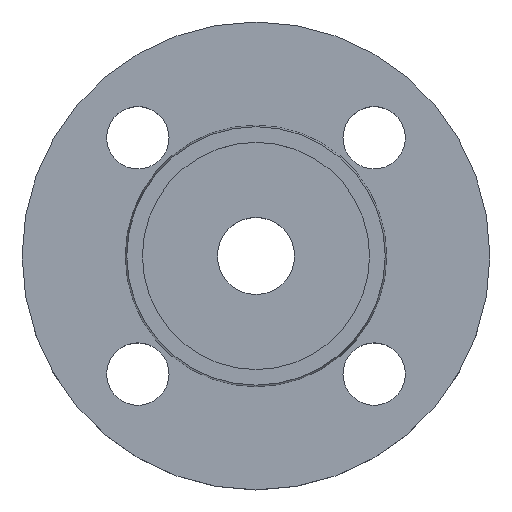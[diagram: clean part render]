
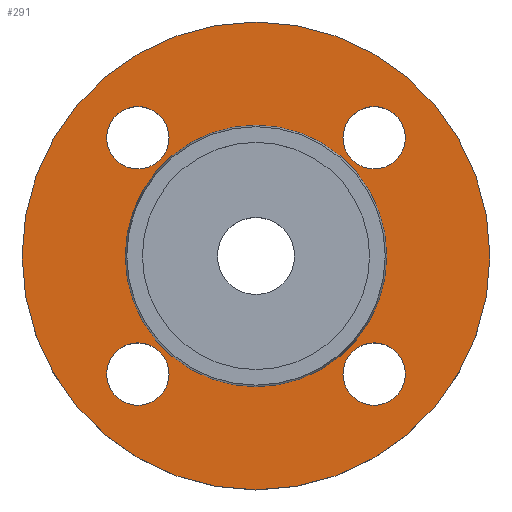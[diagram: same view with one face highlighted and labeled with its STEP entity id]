
A CAD part, top view. The second image highlights one B-rep face of the part: STEP entity #291.
In plain terms, the highlighted planar face has unit normal (0, 0, 1).
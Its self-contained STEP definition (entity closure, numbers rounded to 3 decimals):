
#11 = CIRCLE ( 'NONE', #692, 7. ) ;
#12 = AXIS2_PLACEMENT_3D ( 'NONE', #470, #469, #468 ) ;
#34 = AXIS2_PLACEMENT_3D ( 'NONE', #392, #390, #389 ) ;
#40 = EDGE_CURVE ( 'NONE', #683, #677, #447, .T. ) ;
#49 = CIRCLE ( 'NONE', #257, 7. ) ;
#60 = EDGE_CURVE ( 'NONE', #613, #656, #431, .T. ) ;
#71 = CIRCLE ( 'NONE', #487, 7. ) ;
#73 = AXIS2_PLACEMENT_3D ( 'NONE', #473, #472, #471 ) ;
#80 = EDGE_CURVE ( 'NONE', #598, #604, #593, .T. ) ;
#82 = CARTESIAN_POINT ( 'NONE',  ( -19.517, -26.517, -2. ) ) ;
#94 = DIRECTION ( 'NONE',  ( 1., 0., 0. ) ) ;
#96 = DIRECTION ( 'NONE',  ( 0., 0., -1. ) ) ;
#98 = CARTESIAN_POINT ( 'NONE',  ( -26.517, 26.517, -2. ) ) ;
#99 = CARTESIAN_POINT ( 'NONE',  ( 19.517, -26.517, -2. ) ) ;
#100 = DIRECTION ( 'NONE',  ( -1., 0., 0. ) ) ;
#103 = DIRECTION ( 'NONE',  ( 0., 0., -1. ) ) ;
#104 = CARTESIAN_POINT ( 'NONE',  ( 0., 0., -2. ) ) ;
#124 = CARTESIAN_POINT ( 'NONE',  ( -19.517, 26.517, -2. ) ) ;
#127 = CARTESIAN_POINT ( 'NONE',  ( -52.5, 0., -2. ) ) ;
#132 = CARTESIAN_POINT ( 'NONE',  ( 52.5, 0., -2. ) ) ;
#138 = CIRCLE ( 'NONE', #483, 7. ) ;
#167 = CARTESIAN_POINT ( 'NONE',  ( 19.517, 26.517, -2. ) ) ;
#170 = CARTESIAN_POINT ( 'NONE',  ( 33.517, -26.517, -2. ) ) ;
#172 = CARTESIAN_POINT ( 'NONE',  ( 29.353, 0., -2. ) ) ;
#183 = CARTESIAN_POINT ( 'NONE',  ( 33.517, 26.517, -2. ) ) ;
#190 = EDGE_CURVE ( 'NONE', #604, #598, #526, .T. ) ;
#208 = CARTESIAN_POINT ( 'NONE',  ( -33.517, 26.517, -2. ) ) ;
#217 = DIRECTION ( 'NONE',  ( 1., 0., 0. ) ) ;
#218 = DIRECTION ( 'NONE',  ( 0., 0., -1. ) ) ;
#222 = AXIS2_PLACEMENT_3D ( 'NONE', #322, #321, #320 ) ;
#236 = EDGE_CURVE ( 'NONE', #752, #631, #71, .T. ) ;
#241 = EDGE_CURVE ( 'NONE', #725, #586, #11, .T. ) ;
#250 = DIRECTION ( 'NONE',  ( -1., 0., 0. ) ) ;
#251 = DIRECTION ( 'NONE',  ( 0., 0., -1. ) ) ;
#252 = CARTESIAN_POINT ( 'NONE',  ( 0., 0., -2. ) ) ;
#254 = DIRECTION ( 'NONE',  ( 1., 0., 0. ) ) ;
#255 = DIRECTION ( 'NONE',  ( 0., 0., -1. ) ) ;
#256 = CARTESIAN_POINT ( 'NONE',  ( -26.517, -26.517, -2. ) ) ;
#257 = AXIS2_PLACEMENT_3D ( 'NONE', #98, #96, #94 ) ;
#270 = DIRECTION ( 'NONE',  ( 1., 0., 0. ) ) ;
#271 = DIRECTION ( 'NONE',  ( 0., 0., -1. ) ) ;
#273 = CARTESIAN_POINT ( 'NONE',  ( -26.517, 26.517, -2. ) ) ;
#291 = ADVANCED_FACE ( 'NONE', ( #332, #331, #330, #329, #327, #326 ), #323, .T. ) ;
#320 = DIRECTION ( 'NONE',  ( 1., 0., 0. ) ) ;
#321 = DIRECTION ( 'NONE',  ( 0., 0., 1. ) ) ;
#322 = CARTESIAN_POINT ( 'NONE',  ( 29.353, 0., -2. ) ) ;
#323 = PLANE ( 'NONE',  #222 ) ;
#326 = FACE_OUTER_BOUND ( 'NONE', #609, .T. ) ;
#327 = FACE_BOUND ( 'NONE', #548, .T. ) ;
#329 = FACE_BOUND ( 'NONE', #492, .T. ) ;
#330 = FACE_BOUND ( 'NONE', #581, .T. ) ;
#331 = FACE_BOUND ( 'NONE', #589, .T. ) ;
#332 = FACE_BOUND ( 'NONE', #726, .T. ) ;
#366 = DIRECTION ( 'NONE',  ( 1., 0., 0. ) ) ;
#368 = DIRECTION ( 'NONE',  ( 0., 0., -1. ) ) ;
#370 = CARTESIAN_POINT ( 'NONE',  ( 26.517, -26.517, -2. ) ) ;
#372 = DIRECTION ( 'NONE',  ( 1., 0., 0. ) ) ;
#373 = DIRECTION ( 'NONE',  ( 0., 0., -1. ) ) ;
#374 = CARTESIAN_POINT ( 'NONE',  ( -26.517, -26.517, -2. ) ) ;
#389 = DIRECTION ( 'NONE',  ( 1., 0., 0. ) ) ;
#390 = DIRECTION ( 'NONE',  ( 0., 0., -1. ) ) ;
#392 = CARTESIAN_POINT ( 'NONE',  ( 26.517, 26.517, -2. ) ) ;
#396 = EDGE_CURVE ( 'NONE', #697, #573, #138, .T. ) ;
#431 = CIRCLE ( 'NONE', #73, 29.353 ) ;
#445 = CIRCLE ( 'NONE', #463, 7. ) ;
#447 = CIRCLE ( 'NONE', #575, 52.5 ) ;
#448 = EDGE_CURVE ( 'NONE', #631, #752, #445, .T. ) ;
#460 = AXIS2_PLACEMENT_3D ( 'NONE', #252, #251, #250 ) ;
#461 = CIRCLE ( 'NONE', #460, 29.353 ) ;
#463 = AXIS2_PLACEMENT_3D ( 'NONE', #256, #255, #254 ) ;
#468 = DIRECTION ( 'NONE',  ( 1., 0., 0. ) ) ;
#469 = DIRECTION ( 'NONE',  ( 0., 0., -1. ) ) ;
#470 = CARTESIAN_POINT ( 'NONE',  ( 26.517, 26.517, -2. ) ) ;
#471 = DIRECTION ( 'NONE',  ( -1., 0., 0. ) ) ;
#472 = DIRECTION ( 'NONE',  ( 0., 0., -1. ) ) ;
#473 = CARTESIAN_POINT ( 'NONE',  ( 0., 0., -2. ) ) ;
#474 = DIRECTION ( 'NONE',  ( -1., 0., 0. ) ) ;
#475 = EDGE_CURVE ( 'NONE', #656, #613, #461, .T. ) ;
#477 = DIRECTION ( 'NONE',  ( 0., 0., -1. ) ) ;
#478 = CARTESIAN_POINT ( 'NONE',  ( 0., 0., -2. ) ) ;
#483 = AXIS2_PLACEMENT_3D ( 'NONE', #273, #271, #270 ) ;
#487 = AXIS2_PLACEMENT_3D ( 'NONE', #374, #373, #372 ) ;
#492 = EDGE_LOOP ( 'NONE', ( #694, #695 ) ) ;
#526 = CIRCLE ( 'NONE', #34, 7. ) ;
#548 = EDGE_LOOP ( 'NONE', ( #640, #698 ) ) ;
#555 = EDGE_CURVE ( 'NONE', #586, #725, #571, .T. ) ;
#559 = CIRCLE ( 'NONE', #696, 52.5 ) ;
#571 = CIRCLE ( 'NONE', #607, 7. ) ;
#573 = VERTEX_POINT ( 'NONE', #208 ) ;
#575 = AXIS2_PLACEMENT_3D ( 'NONE', #478, #477, #474 ) ;
#581 = EDGE_LOOP ( 'NONE', ( #691, #693 ) ) ;
#586 = VERTEX_POINT ( 'NONE', #170 ) ;
#589 = EDGE_LOOP ( 'NONE', ( #688, #689 ) ) ;
#593 = CIRCLE ( 'NONE', #12, 7. ) ;
#598 = VERTEX_POINT ( 'NONE', #183 ) ;
#604 = VERTEX_POINT ( 'NONE', #167 ) ;
#607 = AXIS2_PLACEMENT_3D ( 'NONE', #790, #218, #217 ) ;
#609 = EDGE_LOOP ( 'NONE', ( #699, #701 ) ) ;
#613 = VERTEX_POINT ( 'NONE', #172 ) ;
#631 = VERTEX_POINT ( 'NONE', #787 ) ;
#640 = ORIENTED_EDGE ( 'NONE', *, *, #475, .T. ) ;
#656 = VERTEX_POINT ( 'NONE', #776 ) ;
#677 = VERTEX_POINT ( 'NONE', #132 ) ;
#683 = VERTEX_POINT ( 'NONE', #127 ) ;
#685 = ORIENTED_EDGE ( 'NONE', *, *, #555, .T. ) ;
#686 = ORIENTED_EDGE ( 'NONE', *, *, #241, .T. ) ;
#688 = ORIENTED_EDGE ( 'NONE', *, *, #236, .T. ) ;
#689 = ORIENTED_EDGE ( 'NONE', *, *, #448, .T. ) ;
#691 = ORIENTED_EDGE ( 'NONE', *, *, #396, .T. ) ;
#692 = AXIS2_PLACEMENT_3D ( 'NONE', #370, #368, #366 ) ;
#693 = ORIENTED_EDGE ( 'NONE', *, *, #731, .T. ) ;
#694 = ORIENTED_EDGE ( 'NONE', *, *, #80, .T. ) ;
#695 = ORIENTED_EDGE ( 'NONE', *, *, #190, .T. ) ;
#696 = AXIS2_PLACEMENT_3D ( 'NONE', #104, #103, #100 ) ;
#697 = VERTEX_POINT ( 'NONE', #124 ) ;
#698 = ORIENTED_EDGE ( 'NONE', *, *, #60, .T. ) ;
#699 = ORIENTED_EDGE ( 'NONE', *, *, #723, .F. ) ;
#701 = ORIENTED_EDGE ( 'NONE', *, *, #40, .F. ) ;
#723 = EDGE_CURVE ( 'NONE', #677, #683, #559, .T. ) ;
#725 = VERTEX_POINT ( 'NONE', #99 ) ;
#726 = EDGE_LOOP ( 'NONE', ( #685, #686 ) ) ;
#731 = EDGE_CURVE ( 'NONE', #573, #697, #49, .T. ) ;
#752 = VERTEX_POINT ( 'NONE', #82 ) ;
#776 = CARTESIAN_POINT ( 'NONE',  ( -29.353, 0., -2. ) ) ;
#787 = CARTESIAN_POINT ( 'NONE',  ( -33.517, -26.517, -2. ) ) ;
#790 = CARTESIAN_POINT ( 'NONE',  ( 26.517, -26.517, -2. ) ) ;
